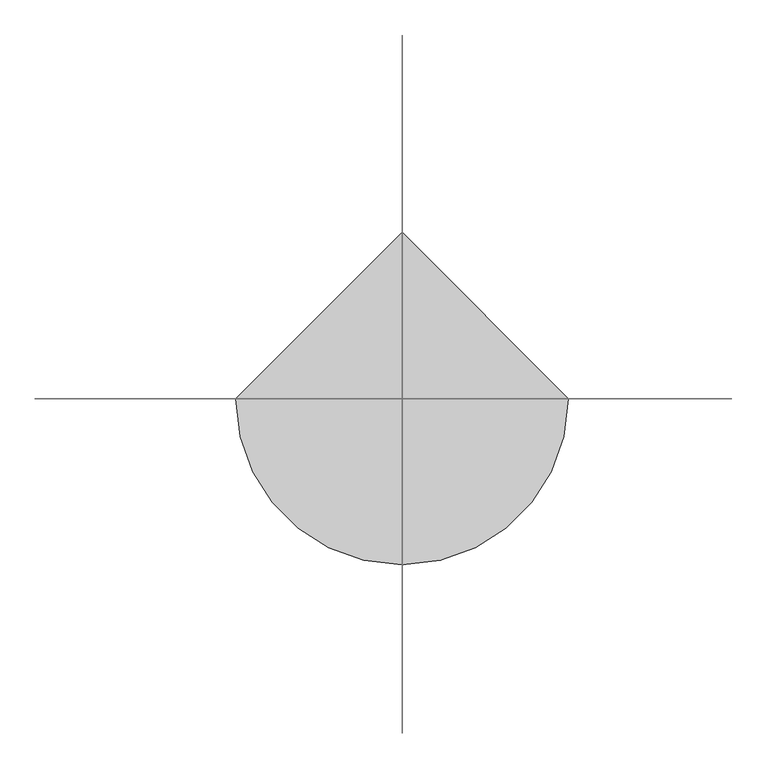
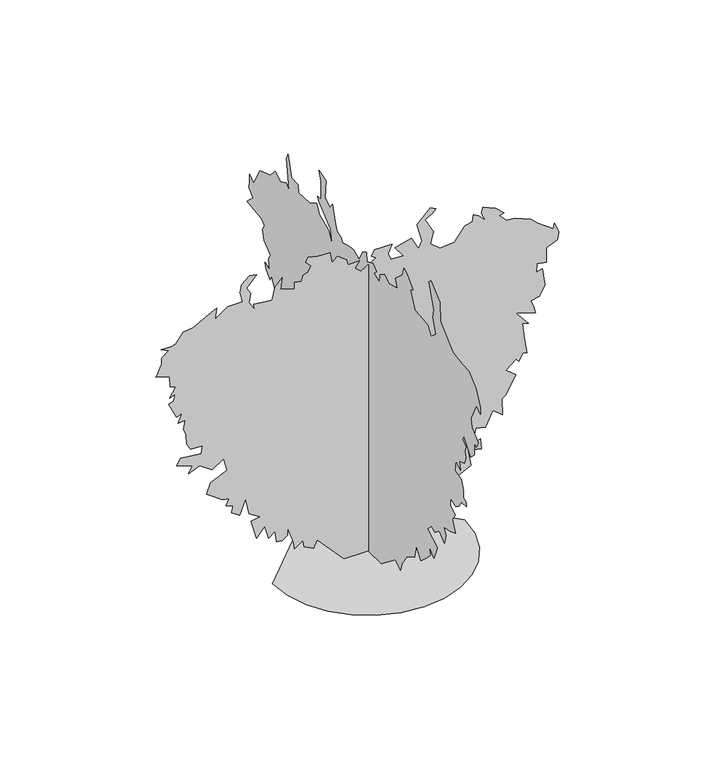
"""IFC4 building model written with IfcOpenShell, lengths in millimetres: geographic element geometry, Vegetacion PAEMFE : SANTA RITA 3 COLORES."""

from ifc_helpers import new_model, si_unit, origin, place, context, project, spatial, triangles, source, transform, mapped, element, save


def geographic_element_7a9d7ef0(model_context):
    return source(origin(), model_context, "Body", "Tessellation", [
        triangles([(-139.8445527, 5.8e-06, 5.6458933), (-215.7373949, 4e-06, 90.4672977), (-291.630782, 2.3e-06, 175.289028), (-313.9519123, 5.9e-06, 130.6462134), (-367.523061, 6.7e-06, 157.4317968), (-371.9875051, 4.5e-06, 197.6101583), (-421.094791, 8.5e-06, 166.3601399), (-425.5592351, 6.3e-06, 206.5390464), (-461.2731525, 2e-06, 304.753582), (-461.2731525, 4.7e-06, 260.1102133), (-492.523716, 7.4e-06, 237.789083), (-523.7731894, 8.5e-06, 242.2535271), (-532.7020775, 4.9e-06, 309.2174629), (-569.3171391, 8.1e-06, 280.9891169), (-577.8726851, 6.6e-06, 313.0702437), (-590.739378, 4.5e-06, 358.3247489), (-635.3782957, 9.6e-06, 304.753582), (-666.6282778, 4.3e-06, 416.3603416), (-617.5226995, 1.7e-06, 425.2892298), (-680.0227364, 2e-06, 465.4675913), (-697.8783325, -3.1e-06, 563.6837983), (-733.5950478, 3.8e-06, 474.3964794), (-778.2394884, 3.9e-06, 505.6464978), (-769.3116903, 1.1e-06, 545.8248957), (-809.4895432, 2.1e-06, 559.2171015), (-791.6284241, -8e-07, 594.9338167), (-831.8117998, 4e-07, 603.8615785), (-879.1340567, 4e-07, 638.0227564), (-921.0951582, 6e-07, 666.3616516), (-898.7729742, -4.1e-06, 728.8616884), (-805.3339828, -1.07e-05, 769.772854), (-822.8784061, -1.44e-05, 844.9340366), (-889.8451761, -9.1e-06, 804.7561838), (-961.273011, -8.9e-06, 853.861762), (-1023.7730478, -4.5e-06, 827.0729176), (-1001.4507912, -7.6e-06, 862.7895601), (-1090.7397451, -5.9e-06, 898.5062754), (-1068.4174885, -9e-06, 934.217395), (-952.3452129, -1.32e-05, 920.8229364), (-943.4174149, -1.63e-05, 965.4674498), (-1010.3785892, -1.36e-05, 969.9341103), (-1032.7008459, -1.51e-05, 1010.1118904), (-1037.1675064, -1.83e-05, 1068.1452667), (-1050.561965, -1.96e-05, 1099.3953215), (-1041.628644, -2.32e-05, 1152.9675602), (-1083.7342134, -2.12e-05, 1151.2509499), (-1059.4897631, -2.53e-05, 1202.0732111), (-1090.7397451, -2.32e-05, 1188.6842754), (-1135.3786629, -2.68e-05, 1282.434367), (-1108.5953413, -2.85e-05, 1291.3621651), (-1099.6675432, -3.13e-05, 1331.5399452), (-1130.917598, -2.91e-05, 1318.1455593), (-1095.2008827, -3.39e-05, 1371.7177254), (-1129.0453285, -3.33e-05, 1387.2900307), (-1130.917598, -3.68e-05, 1447.6122208), (-1206.8120934, -3.49e-05, 1469.9345501), (-1175.5565157, -4.02e-05, 1536.8957245), (-1177.1342537, -4.24e-05, 1575.5289768), (-1135.3786629, -4.6e-05, 1603.8624218), (-1180.0231762, -4.53e-05, 1626.1846058), (-1121.4731163, -4.77e-05, 1623.1179325), (-1095.2008827, -4.93e-05, 1630.645816), (-1055.0231026, -5.45e-05, 1688.6847153), (-996.9896536, -5.73e-05, 1693.1457802), (-925.5618187, -6.28e-05, 1733.3235603), (-864.2117844, -6.73e-05, 1763.7513542), (-871.98958, -6.33e-05, 1702.0735783), (-800.5617451, -6.94e-05, 1751.1846794), (-715.7394516, -7.31e-05, 1751.1846794), (-731.4450336, -7.6e-05, 1810.8792915), (-722.022789, -7.91e-05, 1857.0904243), (-675.5616714, -8.34e-05, 1894.0403492), (-635.3782957, -8.46e-05, 1885.1125511), (-694.5227961, -7.84e-05, 1824.3069603), (-671.0950109, -7.72e-05, 1786.8958717), (-680.0227364, -7.36e-05, 1733.3235603), (-648.7727543, -7.2e-05, 1684.2179821), (-653.2394148, -7.37e-05, 1715.4681095), (-549.0721175, -7.75e-05, 1702.5013138), (-532.7020775, -8.24e-05, 1773.5070087), (-492.523716, -8.68e-05, 1818.1458538), (-499.3348555, -8.26e-05, 1752.6514503), (-421.094791, -8.44e-05, 1724.3957623), (-421.094791, -8.68e-05, 1764.5736877), (-379.5375166, -8.81e-05, 1756.6958256), (-371.9875051, -9.05e-05, 1791.3626049), (-345.2013857, -9.22e-05, 1800.2902576), (-327.3446995, -9.48e-05, 1831.5403851), (-358.5947179, -9.53e-05, 1862.7903671), (-345.2013857, -9.75e-05, 1889.5737614), (-287.1657929, -9.93e-05, 1876.1848984), (-220.2012939, -0.0001019, 1871.7181652), (-206.8085067, -9.88e-05, 1809.2180557), (-175.5584702, -0.0001017, 1836.0069729), (-124.4878774, -0.0001016, 1796.0791775), (-117.5228683, -0.0001, 1764.5736877), (-50.5585419, -0.000103, 1764.5736877), (-77.3439527, -9.97e-05, 1728.8624954), (-41.6298672, -9.94e-05, 1697.6125134), (43.1912, -0.0001063, 1751.1846794), (16.4058459, -0.0001061, 1769.0402756), (33.0776935, -0.0001088, 1802.0347733), (132.4767702, -0.0001131, 1800.2902576), (110.6645297, -0.0001091, 1749.379121), (128.0128803, -0.0001076, 1711.0068993), (199.4412784, -0.0001104, 1706.5403114), (150.3345647, -0.0001123, 1773.5070087), (244.0840839, -0.0001177, 1795.8236698), (284.2630086, -0.0001149, 1719.9346973), (303.9046876, -0.0001182, 1759.9792007), (275.3346655, -0.0001233, 1867.2571003), (351.2275077, -0.0001312, 1943.1459274), (382.4775261, -0.0001315, 1925.2904766), (360.1563958, -0.0001292, 1902.9681473), (319.9774893, -0.0001261, 1880.6459633), (369.0847389, -0.0001229, 1791.3626049), (352.3469524, -0.0001182, 1725.0624367), (404.7992014, -0.0001178, 1679.7569172), (444.9770179, -0.0001198, 1684.2179821), (489.6204048, -0.000122, 1688.6847153), (547.6565426, -0.0001291, 1764.5736877), (589.9171535, -0.0001315, 1774.4459049), (596.7615758, -0.0001342, 1813.6847889), (623.5505293, -0.0001346, 1800.2902576), (665.1005367, -0.0001338, 1756.6958256), (641.4060528, -0.0001359, 1809.2180557), (650.3338509, -0.0001381, 1840.4681831), (721.7616858, -0.0001394, 1809.2180557), (768.5783775, -0.0001389, 1767.1569603), (743.7728422, -0.0001372, 1757.318026), (784.2617226, -0.0001365, 1715.4681095), (833.3728964, -0.0001384, 1711.0068993), (923.2396494, -0.0001402, 1674.8624485), (962.8341076, -0.0001395, 1635.1124039), (1052.1230616, -0.0001397, 1572.6124397), (1056.5841991, -0.0001418, 1603.8624218), (1083.3731163, -0.0001392, 1541.3623123), (1074.4453182, -0.0001362, 1496.717799), (1011.9396858, -0.0001318, 1469.9345501), (1011.9396858, -0.0001268, 1385.1122566), (958.37297, -0.000125, 1394.0400547), (953.9063095, -0.0001218, 1344.9344765), (989.6230247, -0.0001239, 1353.8621292), (1003.0118877, -0.0001184, 1251.1843849), (971.7619057, -0.0001136, 1193.145413), (922.6563274, -0.0001109, 1184.2176149), (940.5118509, -0.000109, 1139.5731016), (949.4451719, -0.0001073, 1103.861982), (837.834034, -0.0001045, 1139.5731016), (909.2618689, -0.0001026, 1054.7564037), (873.5506765, -0.0001016, 1063.6842018), (886.9396122, -9.66e-05, 969.9341103), (900.3340708, -9.18e-05, 880.6451563), (878.0118141, -9.11e-05, 885.1118168), (855.6895575, -8.78e-05, 844.9340366), (837.834034, -8.8e-05, 862.7895601), (779.8006577, -8.28e-05, 818.1451195), (837.834034, -8.24e-05, 769.0394686), (779.8006577, -7.41e-05, 670.8227892), (757.478401, -7.2e-05, 652.967193), (761.9394659, -6.64e-05, 554.7537838), (707.450568, -6.68e-05, 601.4726981), (663.7283094, -5.97e-05, 514.5748409), (610.1560707, -5.81e-05, 527.9676281), (583.611579, -5.15e-05, 435.8770283), (636.9393923, -5.5e-05, 456.5392482), (641.4060528, -5.15e-05, 394.0392114), (565.5115574, -4.93e-05, 411.8964426), (583.3726765, -4.42e-05, 313.681907), (507.4776361, -3.87e-05, 277.9674445), (471.7637186, -3.37e-05, 219.9318336), (431.5847757, -3.28e-05, 233.3246389), (418.1919886, -2.63e-05, 135.1101124), (386.9419702, -2.84e-05, 193.1462593), (328.9063774, -1.92e-05, 81.5389546), (288.7268895, -1.93e-05, 112.7889821), (150.3345647, -6.9e-06, 5.6458933), (1.1e-06, 127.9717672, 0.0), (1.23e-05, 261.9007653, 120.5356477), (1.34e-05, 300.9324672, 108.6145276), (1.22e-05, 373.5080881, 227.6790715), (1.2e-05, 395.8292184, 200.8929339), (2.14e-05, 431.5436809, 160.7145724), (1.48e-05, 467.2581433, 191.9645908), (1.46e-05, 449.4009121, 205.357378), (2.12e-05, 489.5792736, 316.9647008), (1.89e-05, 507.4365048, 245.5357577), (2.18e-05, 520.829292, 299.1074696), (2.47e-05, 605.6504954, 281.2502202), (2.45e-05, 556.5448809, 325.8930439), (2.67e-05, 601.1893579, 330.357488), (3.18e-05, 672.6172291, 375.0002935), (3.12e-05, 614.5782572, 419.6430991), (3.68e-05, 654.75611, 508.9292916), (3.68e-05, 694.9394131, 468.7503851), (4.13e-05, 766.1950928, 498.8426253), (4.35e-05, 744.045064, 571.4282384), (4.52e-05, 775.295046, 580.3560365), (4.85e-05, 779.7561836, 651.783835), (5.17e-05, 860.1173395, 642.8560369), (5.71e-05, 900.2951923, 727.6783304), (5.63e-05, 869.0451376, 741.072789), (6.4e-05, 958.3285686, 825.8950825), (6.16e-05, 886.9007338, 843.7506786), (6.34e-05, 900.2951923, 870.5340002), (5.57e-05, 913.6840553, 901.7840549), (5.42e-05, 864.5784771, 915.1785135), (5.96e-05, 909.2229177, 995.5341465), (6.51e-05, 953.8674311, 1075.8953024), (6.45e-05, 971.7230272, 1044.6452477), (6.8e-05, 1007.4341469, 1089.2842381), (7e-05, 1020.8286055, 1120.5342201), (6.73e-05, 976.1840921, 1102.678624), (7.02e-05, 985.1174858, 1160.7175959), (7.08e-05, 962.7952291, 1196.4287155), (7.58e-05, 1029.7564035, 1245.5342937), (7.9e-05, 1043.1508621, 1303.573193), (7.95e-05, 1025.295266, 1334.8233204), (8.19e-05, 1052.0785875, 1361.6067146), (8.89e-05, 1194.9398529, 1379.4678337), (8.89e-05, 1136.900881, 1437.50121), (9.22e-05, 1177.0787338, 1473.2177799), (9.39e-05, 1173.5953709, 1513.9789547), (9.56e-05, 1171.0287397, 1557.3345932), (9.26e-05, 1132.4342205, 1526.7845684), (8.52e-05, 1065.4730461, 1642.8568439), (8.23e-05, 962.7952291, 1678.5735592), (8.25e-05, 918.1507158, 1727.6791374), (7.87e-05, 864.5784771, 1696.4291553), (7.76e-05, 811.0062384, 1723.2180725), (7.52e-05, 784.2228441, 1696.4291553), (8.4e-05, 806.5451008, 1875.0015404), (8.48e-05, 793.1506422, 1906.2515224), (7.8e-05, 757.433927, 1785.7180367), (7.5e-05, 694.9338902, 1781.2514488), (7.29e-05, 690.4727526, 1736.6069355), (6.82e-05, 574.400477, 1745.5347336), (6.7e-05, 511.9009489, 1781.2514488), (6.35e-05, 480.6509305, 1732.1458706), (5.81e-05, 395.8292184, 1691.9680904), (5.32e-05, 355.6508569, 1620.53466), (5.81e-05, 373.5080881, 1714.2847515), (6.7e-05, 489.5792736, 1803.5736328), (6.88e-05, 502.9726421, 1830.3570271), (6.74e-05, 467.2575983, 1834.8237602), (7.21e-05, 467.2575983, 1941.9682377), (7.54e-05, 489.5792736, 1995.5348808), (7.13e-05, 418.1508937, 1973.2182198), (6.7e-05, 427.0792368, 1866.0737423), (6.37e-05, 377.9719872, 1839.2848251), (6.41e-05, 355.6508569, 1870.5348072), (5.92e-05, 328.8647012, 1785.7180367), (5.63e-05, 311.0074699, 1736.6069355), (5.4e-05, 270.8291084, 1723.2180725), (5.24e-05, 257.4368663, 1700.8957432), (5.08e-05, 208.3290534, 1714.2847515), (4.87e-05, 150.2934516, 1723.2180725), (4.52e-05, 94.3500731, 1698.0792), (4.65e-05, 56.5439323, 1767.8569176), (4.58e-05, 20.8289067, 1785.7180367), (4.32e-05, 16.3646239, 1732.1458706), (4.19e-05, -41.6710893, 1758.9291195), (3.89e-05, -77.3850657, 1727.6791374), (3.89e-05, -55.0635994, 1705.3569534), (3.56e-05, -108.6356383, 1683.0346241), (3.76e-05, -113.0995373, 1732.1458706), (3.7e-05, -157.742897, 1763.3958527), (3.37e-05, -202.3857207, 1732.1458706), (3.11e-05, -282.7430069, 1754.4680546), (3.41e-05, -264.8857757, 1803.5736328), (3.37e-05, -334.6491591, 1865.0293293), (3.52e-05, -349.706961, 1915.1793205), (3.33e-05, -376.4930803, 1897.3237244), (2.8e-05, -438.9931171, 1839.2848251), (2.84e-05, -412.2064528, 1821.429229), (2.24e-05, -456.8498034, 1727.6791374), (1.86e-05, -537.2071077, 1723.2180725), (1.61e-05, -586.3171188, 1714.2847515), (1.28e-05, -613.1005131, 1665.1791733), (1.25e-05, -663.017161, 1707.6402443), (1.75e-05, -635.4226971, 1794.6458347), (1.92e-05, -644.3504951, 1843.751413), (2.74e-05, -595.2449169, 1982.1460178), (2.74e-05, -613.1005131, 2000.001614), (2.02e-05, -702.3838715, 1924.1071186), (1.51e-05, -706.850532, 1812.5014309), (9.3e-06, -775.6894987, 1748.7513977), (4.8e-06, -831.8506783, 1700.8957432), (3e-07, -921.1340366, 1687.5013573), (-2.8e-06, -988.1008066, 1683.0346241), (-8.5e-06, -1055.0675039, 1620.53466), (-1.43e-05, -1099.7064217, 1531.2511562), (-1.61e-05, -1099.7064217, 1491.0733761), (-1.32e-05, -1063.995302, 1522.3235035), (-5.9e-06, -1005.9563301, 1410.7178158), (-8.5e-06, -1019.3507887, 1366.0733025), (-1.37e-05, -1081.8508982, 1308.0344032), (-1.45e-05, -1063.995302, 1272.3232109), (-1.3e-05, -1041.6730453, 1285.7177422), (-1.61e-05, -1041.6730453, 1214.2843117), (-1.61e-05, -1005.9563301, 1178.573192), (-9.4e-06, -938.9952284, 1263.3954128), (-9.8e-06, -925.6007698, 1241.0732288), (-1.26e-05, -961.3174124, 1214.2843117), (-1.35e-05, -947.9229538, 1178.573192), (-1.55e-05, -961.3174124, 1147.3231373), (-1.67e-05, -943.4562933, 1102.678624), (-1.53e-05, -894.3507151, 1084.8231005), (-1.78e-05, -903.2785131, 1035.7175222), (-1.45e-05, -858.6339998, 1066.9675043), (-1.69e-05, -849.7062017, 1004.4674675), (-2.06e-05, -916.6729717, 986.6063484), (-2.37e-05, -934.5284952, 933.0341097), (-2.55e-05, -936.6618679, 893.3729404), (-2.7e-05, -956.8507519, 879.4673939), (-2.84e-05, -965.77855, 857.1451372), (-2.64e-05, -916.6729717, 852.6784767), (-2.7e-05, -889.8840546, 812.5006239), (-2.66e-05, -863.1006603, 794.6451004), (-2.35e-05, -805.067284, 808.0339634), (-1.59e-05, -805.067284, 763.3950457), (-1.92e-05, -854.1729349, 736.6061285), (-1.98e-05, -827.3840178, 696.4283484), (-2.39e-05, -854.1729349, 629.467174), (-2.25e-05, -800.6006235, 607.1449173), (-2.04e-05, -742.5672472, 598.2171556), (-2.29e-05, -760.4228434, 558.0337798), (-2.46e-05, -747.0283848, 504.4648476), (-2.07e-05, -697.9228065, 544.6432091), (-2.02e-05, -653.2782932, 513.3931907), (-1.8e-05, -622.0283112, 531.2504219), (-1.8e-05, -581.8504583, 491.0720604), (-2.46e-05, -680.0616875, 437.5003667), (-2.68e-05, -644.3504951, 352.6786182), (-2.27e-05, -595.2449169, 397.3219688), (-2.54e-05, -608.6338162, 348.2147192), (-2.56e-05, -577.3837978, 312.5002567), (-2.52e-05, -514.8859775, 258.9285449), (-2.07e-05, -470.2431719, 316.9647008), (-2.32e-05, -450.2575822, 240.2290867), (-2.19e-05, -380.9569794, 200.8929339), (-2.29e-05, -327.3858307, 125.0001009), (-1.47e-05, -313.9924622, 80.3572862), (-1.12e-05, -264.8857757, 111.6073137), (-9.8e-06, -126.4923245, 4.4643314), (-546.4293283, 0.0, 0.1993429), (-531.9831897, -125.205657, 0.1993346), (-490.8420599, -240.1863022, 0.1993263), (-426.2986885, -341.6491679, 0.1993174), (-341.6491679, -426.2986885, 0.1993085), (-240.1863022, -490.8415149, 0.1993002), (-125.2051029, -531.9831897, 0.1992929), (1.96e-05, -546.4293283, 0.1992863), (125.205657, -531.9831897, 0.1992818), (240.1863022, -490.8415149, 0.1993557), (341.6491679, -426.2986885, 0.1993552), (426.2992335, -341.6491679, 0.1993568), (490.8415149, -240.1863022, 0.1992829), (531.9831897, -125.2051029, 0.1992885), (546.4293283, 4.78e-05, 0.1992952), (-7.64e-05, 546.4293283, 0.1993513)], [[59, 60, 61], [135, 136, 137], [51, 52, 53], [34, 35, 36], [149, 150, 151], [80, 81, 82], [172, 173, 174], [160, 161, 162], [96, 97, 98], [16, 17, 18], [16, 18, 19], [65, 66, 67], [147, 148, 149], [72, 73, 74], [71, 72, 74], [70, 71, 74], [45, 46, 47], [128, 129, 130], [6, 7, 8], [106, 107, 108], [106, 108, 109], [13, 14, 15], [102, 103, 104], [146, 147, 149], [152, 153, 154], [79, 80, 82], [166, 167, 168], [165, 166, 168], [122, 123, 124], [154, 155, 156], [112, 113, 114], [111, 112, 114], [111, 114, 115], [77, 78, 79], [21, 22, 23], [21, 23, 24], [83, 84, 85], [174, 175, 176], [36, 37, 38], [36, 38, 39], [34, 36, 39], [139, 140, 141], [55, 56, 57], [24, 25, 26], [126, 127, 128], [125, 126, 128], [125, 128, 130], [101, 102, 104], [100, 101, 104], [48, 49, 50], [47, 48, 50], [142, 143, 144], [3, 4, 5], [3, 5, 6], [110, 111, 115], [110, 115, 116], [110, 116, 117], [109, 110, 117], [69, 70, 74], [69, 74, 75], [69, 75, 76], [122, 124, 125], [157, 158, 159], [21, 24, 26], [93, 94, 95], [162, 163, 164], [170, 171, 172], [89, 90, 91], [88, 89, 91], [28, 29, 30], [28, 30, 31], [27, 28, 31], [26, 27, 31], [168, 169, 170], [11, 12, 13], [10, 11, 13], [9, 10, 13], [91, 92, 93], [88, 91, 93], [87, 88, 93], [13, 15, 16], [93, 95, 96], [21, 26, 31], [32, 33, 34], [32, 34, 39], [32, 39, 40], [79, 82, 83], [100, 104, 105], [53, 54, 55], [6, 8, 9], [64, 65, 67], [85, 86, 87], [57, 58, 59], [99, 100, 105], [55, 57, 59], [40, 41, 42], [40, 42, 43], [135, 137, 138], [135, 138, 139], [134, 135, 139], [142, 144, 145], [142, 145, 146], [152, 154, 156], [134, 139, 141], [157, 159, 160], [142, 146, 149], [62, 63, 64], [177, 1, 2], [176, 177, 2], [176, 2, 3], [85, 87, 93], [19, 20, 21], [125, 130, 131], [133, 134, 141], [132, 133, 141], [131, 132, 141], [174, 176, 3], [109, 117, 118], [85, 93, 96], [85, 96, 98], [83, 85, 98], [125, 131, 141], [125, 141, 142], [125, 142, 149], [122, 125, 149], [121, 122, 149], [120, 121, 149], [119, 120, 149], [118, 119, 149], [83, 98, 99], [47, 50, 51], [172, 174, 3], [59, 61, 62], [55, 59, 62], [55, 62, 64], [55, 64, 67], [53, 55, 67], [9, 13, 16], [9, 16, 19], [157, 160, 162], [168, 170, 172], [168, 172, 3], [165, 168, 3], [164, 165, 3], [164, 3, 6], [164, 6, 9], [164, 9, 19], [164, 19, 21], [164, 21, 31], [164, 31, 32], [162, 164, 32], [157, 162, 32], [157, 32, 40], [157, 40, 43], [157, 43, 44], [157, 44, 45], [157, 45, 47], [157, 47, 51], [157, 51, 53], [157, 53, 67], [157, 67, 68], [156, 157, 68], [152, 156, 68], [109, 118, 149], [106, 109, 149], [105, 106, 149], [99, 105, 149], [99, 149, 151], [99, 151, 152], [83, 99, 152], [79, 83, 152], [77, 79, 152], [77, 152, 68], [77, 68, 69], [76, 77, 69], [186, 187, 188], [188, 189, 190], [232, 233, 234], [231, 232, 234], [308, 309, 310], [211, 212, 213], [292, 293, 294], [246, 247, 248], [219, 220, 221], [246, 248, 249], [245, 246, 249], [250, 251, 252], [223, 224, 225], [202, 203, 204], [327, 328, 329], [259, 260, 261], [209, 210, 211], [209, 211, 213], [191, 192, 193], [243, 244, 245], [333, 334, 335], [332, 333, 335], [271, 272, 273], [315, 316, 317], [314, 315, 317], [342, 343, 344], [273, 274, 275], [258, 259, 261], [291, 292, 294], [271, 273, 275], [183, 184, 185], [182, 183, 185], [326, 327, 329], [205, 206, 207], [300, 301, 302], [299, 300, 302], [321, 322, 323], [297, 298, 299], [296, 297, 299], [262, 263, 264], [261, 262, 264], [296, 299, 302], [337, 338, 339], [200, 201, 202], [199, 200, 202], [323, 324, 325], [242, 243, 245], [242, 245, 249], [242, 249, 250], [242, 250, 252], [242, 252, 253], [237, 238, 239], [283, 284, 285], [282, 283, 285], [282, 285, 286], [281, 282, 286], [280, 281, 286], [280, 286, 287], [195, 196, 197], [194, 195, 197], [241, 242, 253], [241, 253, 254], [241, 254, 255], [234, 235, 236], [231, 234, 236], [227, 228, 229], [190, 191, 193], [179, 180, 181], [303, 304, 305], [229, 230, 231], [270, 271, 275], [269, 270, 275], [269, 275, 276], [197, 198, 199], [266, 267, 268], [265, 266, 268], [222, 223, 225], [221, 222, 225], [186, 188, 190], [182, 185, 186], [181, 182, 186], [204, 205, 207], [329, 330, 331], [323, 325, 326], [280, 287, 288], [321, 323, 326], [311, 312, 313], [335, 336, 337], [335, 337, 339], [332, 335, 339], [295, 296, 302], [277, 278, 279], [219, 221, 225], [219, 225, 226], [219, 226, 227], [219, 227, 229], [218, 219, 229], [218, 229, 231], [186, 190, 193], [306, 307, 308], [305, 306, 308], [303, 305, 308], [303, 308, 310], [311, 313, 314], [311, 314, 317], [311, 317, 318], [311, 318, 319], [311, 319, 320], [339, 340, 341], [258, 261, 264], [345, 178, 179], [344, 345, 179], [344, 179, 181], [216, 217, 218], [215, 216, 218], [215, 218, 231], [215, 231, 236], [215, 236, 237], [215, 237, 239], [215, 239, 240], [215, 240, 241], [341, 342, 344], [341, 344, 181], [339, 341, 181], [332, 339, 181], [332, 181, 186], [332, 186, 193], [332, 193, 194], [331, 332, 194], [279, 280, 288], [290, 291, 294], [289, 290, 294], [289, 294, 295], [288, 289, 295], [279, 288, 295], [279, 295, 302], [279, 302, 303], [279, 303, 310], [213, 214, 215], [209, 213, 215], [209, 215, 241], [208, 209, 241], [207, 208, 241], [326, 329, 331], [321, 326, 331], [321, 331, 194], [320, 321, 194], [311, 320, 194], [310, 311, 194], [279, 310, 194], [277, 279, 194], [276, 277, 194], [269, 276, 194], [268, 269, 194], [265, 268, 194], [264, 265, 194], [258, 264, 194], [258, 194, 197], [258, 197, 199], [258, 199, 202], [258, 202, 204], [258, 204, 207], [258, 207, 241], [258, 241, 255], [258, 255, 256], [257, 258, 256], [360, 361, 346], [359, 360, 346], [359, 346, 347], [358, 359, 347], [358, 347, 348], [358, 348, 349], [357, 358, 349], [356, 357, 349], [356, 349, 350], [356, 350, 351], [356, 351, 352], [356, 352, 353], [356, 353, 354], [356, 354, 355]], closed=False),
    ])


if __name__ == "__main__":
    model = new_model("IFC4")
    model_context = context("Model", 3, world=origin())
    ifc_project = project(units=[si_unit("LENGTHUNIT", "METRE", prefix="MILLI")], contexts=[model_context])
    site = spatial("IfcSite", under=ifc_project)
    building = spatial("IfcBuilding", under=site)
    placement = place(None, origin())
    geographic_element_shape = geographic_element_7a9d7ef0(model_context)
    element("IfcGeographicElement", 1, ObjectType="Vegetacion PAEMFE : SANTA RITA 3 COLORES", at=placement, inside=building, context=model_context, shape_type="MappedRepresentation", body=[
        mapped(geographic_element_shape, transform((0.0, 0.0, 0.0), x_axis=(1.0, 0.0, 0.0), y_axis=(0.0, 1.0, 0.0), z_axis=(0.0, 0.0, 1.0))),
    ])
    save(model, "model.ifc")
